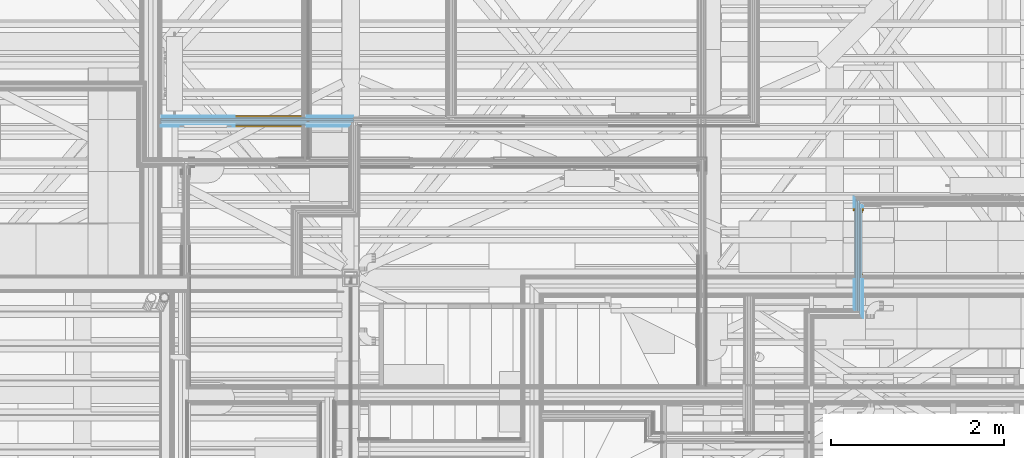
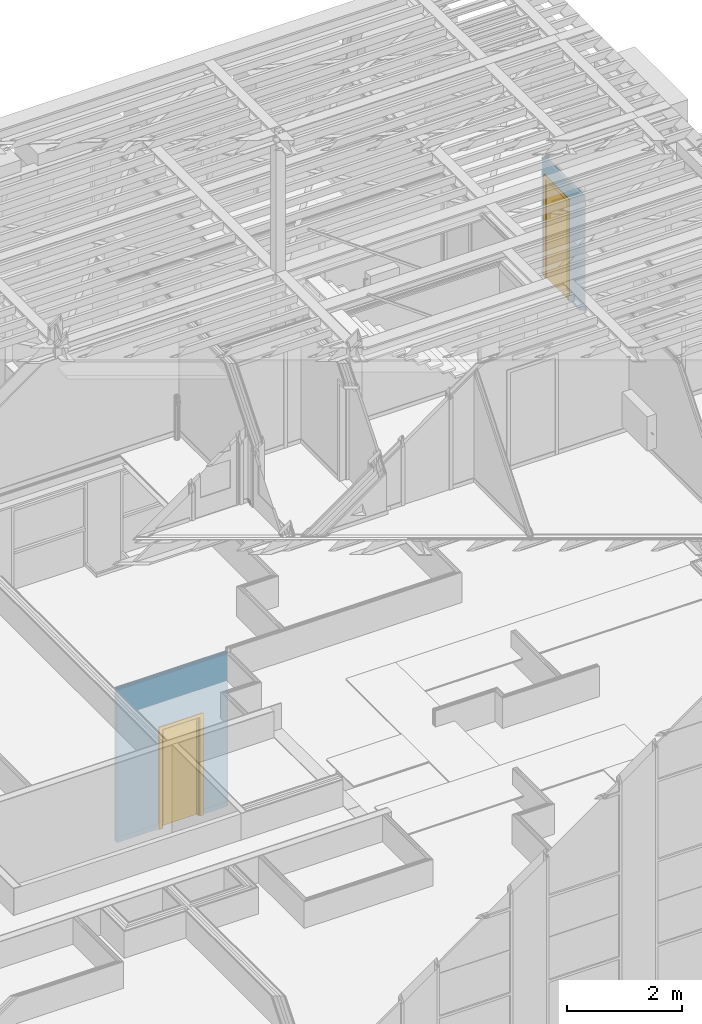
# One storey, part 105 of 183: 2 doors, 2 openings, 2 elements without a shape of their own, plus 14 elements that do not belong to this part.
"""IFC2X3 building model written with IfcOpenShell, lengths in metres."""

from ifc_helpers import new_model, entity, si_unit, converted_unit, derived_unit, money_unit, direction, frame, frame_2d, origin_with_axes, place, context, subcontext, project, spatial, polyline, rectangle, outline, extrude, faceted_brep, material, type_object, element, fill, aggregate, save


model = new_model("IFC2X3")

# Units and contexts
model_context = context("Model", 3, precision=1e-05, world=origin_with_axes(), true_north=direction((0.0, 1.0)))
body_context = subcontext(model_context, "Body", "Model", "MODEL_VIEW", scale=1.0)
ifc_project = project(units=[si_unit("LENGTHUNIT", "METRE"), si_unit("AREAUNIT", "SQUARE_METRE"), si_unit("VOLUMEUNIT", "CUBIC_METRE"), si_unit("ABSORBEDDOSEUNIT", "GRAY"), si_unit("AMOUNTOFSUBSTANCEUNIT", "MOLE"), si_unit("DOSEEQUIVALENTUNIT", "SIEVERT"), si_unit("ELECTRICCAPACITANCEUNIT", "FARAD"), si_unit("ELECTRICCHARGEUNIT", "COULOMB"), si_unit("ELECTRICCONDUCTANCEUNIT", "SIEMENS"), si_unit("ELECTRICCURRENTUNIT", "AMPERE"), si_unit("ELECTRICRESISTANCEUNIT", "OHM"), si_unit("ELECTRICVOLTAGEUNIT", "VOLT"), si_unit("ENERGYUNIT", "JOULE"), si_unit("FORCEUNIT", "NEWTON"), si_unit("FREQUENCYUNIT", "HERTZ"), si_unit("ILLUMINANCEUNIT", "LUX"), si_unit("INDUCTANCEUNIT", "HENRY"), si_unit("LUMINOUSFLUXUNIT", "LUMEN"), si_unit("LUMINOUSINTENSITYUNIT", "CANDELA"), si_unit("MAGNETICFLUXDENSITYUNIT", "TESLA"), si_unit("MAGNETICFLUXUNIT", "WEBER"), si_unit("MASSUNIT", "GRAM"), converted_unit("PLANEANGLEUNIT", "degree", entity("IfcReal", 0.0174532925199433), si_unit("PLANEANGLEUNIT", "RADIAN"), dimensions=[0, 0, 0, 0, 0, 0, 0]), si_unit("POWERUNIT", "WATT"), si_unit("PRESSUREUNIT", "PASCAL"), si_unit("RADIOACTIVITYUNIT", "BECQUEREL"), si_unit("SOLIDANGLEUNIT", "STERADIAN"), si_unit("THERMODYNAMICTEMPERATUREUNIT", "KELVIN"), si_unit("TIMEUNIT", "SECOND"), derived_unit("ACCELERATIONUNIT", [(si_unit("LENGTHUNIT", "METRE"), 1), (si_unit("TIMEUNIT", "SECOND"), -2)]), derived_unit("ANGULARVELOCITYUNIT", [(converted_unit("PLANEANGLEUNIT", "degree", entity("IfcReal", 0.0174532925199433), si_unit("PLANEANGLEUNIT", "RADIAN"), dimensions=[0, 0, 0, 0, 0, 0, 0]), 1), (si_unit("TIMEUNIT", "SECOND"), -1)]), derived_unit("CURVATUREUNIT", [(converted_unit("PLANEANGLEUNIT", "degree", entity("IfcReal", 0.0174532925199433), si_unit("PLANEANGLEUNIT", "RADIAN"), dimensions=[0, 0, 0, 0, 0, 0, 0]), 1), (si_unit("LENGTHUNIT", "METRE"), -1)]), derived_unit("DYNAMICVISCOSITYUNIT", [(si_unit("PRESSUREUNIT", "PASCAL"), 1), (si_unit("TIMEUNIT", "SECOND"), 1)]), derived_unit("HEATFLUXDENSITYUNIT", [(si_unit("POWERUNIT", "WATT"), 1), (si_unit("LENGTHUNIT", "METRE"), -2)]), derived_unit("HEATINGVALUEUNIT", [(si_unit("ENERGYUNIT", "JOULE"), 1), (si_unit("MASSUNIT", "GRAM"), -1)]), derived_unit("INTEGERCOUNTRATEUNIT", [(si_unit("TIMEUNIT", "SECOND"), -1)]), derived_unit("IONCONCENTRATIONUNIT", [(si_unit("MASSUNIT", "GRAM"), 1), (si_unit("VOLUMEUNIT", "CUBIC_METRE"), -1)]), derived_unit("ISOTHERMALMOISTURECAPACITYUNIT", [(si_unit("VOLUMEUNIT", "CUBIC_METRE"), 1), (si_unit("MASSUNIT", "GRAM"), -1)]), derived_unit("KINEMATICVISCOSITYUNIT", [(si_unit("AREAUNIT", "SQUARE_METRE"), 1), (si_unit("TIMEUNIT", "SECOND"), -1)]), derived_unit("LINEARFORCEUNIT", [(si_unit("FORCEUNIT", "NEWTON"), 1), (si_unit("LENGTHUNIT", "METRE"), -1)]), derived_unit("LINEARMOMENTUNIT", [(si_unit("FORCEUNIT", "NEWTON"), 1), (si_unit("LENGTHUNIT", "METRE"), -1)]), derived_unit("LINEARSTIFFNESSUNIT", [(si_unit("FORCEUNIT", "NEWTON"), 1), (si_unit("LENGTHUNIT", "METRE"), -1)]), derived_unit("LINEARVELOCITYUNIT", [(si_unit("LENGTHUNIT", "METRE"), 1), (si_unit("TIMEUNIT", "SECOND"), -1)]), derived_unit("LUMINOUSINTENSITYDISTRIBUTIONUNIT", [(si_unit("LUMINOUSINTENSITYUNIT", "CANDELA"), 1), (si_unit("LUMINOUSFLUXUNIT", "LUMEN"), -1)]), derived_unit("MASSDENSITYUNIT", [(si_unit("MASSUNIT", "GRAM"), 1), (si_unit("VOLUMEUNIT", "CUBIC_METRE"), -1)]), derived_unit("MASSFLOWRATEUNIT", [(si_unit("MASSUNIT", "GRAM"), 1), (si_unit("TIMEUNIT", "SECOND"), -1)]), derived_unit("MASSPERLENGTHUNIT", [(si_unit("MASSUNIT", "GRAM"), 1), (si_unit("LENGTHUNIT", "METRE"), -1)]), derived_unit("MODULUSOFELASTICITYUNIT", [(si_unit("FORCEUNIT", "NEWTON"), 1), (si_unit("AREAUNIT", "SQUARE_METRE"), -1)]), derived_unit("MODULUSOFLINEARSUBGRADEREACTIONUNIT", [(si_unit("FORCEUNIT", "NEWTON"), 1), (si_unit("LENGTHUNIT", "METRE"), -2)]), derived_unit("MODULUSOFROTATIONALSUBGRADEREACTIONUNIT", [(si_unit("FORCEUNIT", "NEWTON"), 1), (si_unit("LENGTHUNIT", "METRE"), 1)]), derived_unit("MODULUSOFSUBGRADEREACTIONUNIT", [(si_unit("FORCEUNIT", "NEWTON"), 1), (si_unit("VOLUMEUNIT", "CUBIC_METRE"), -1)]), derived_unit("MOISTUREDIFFUSIVITYUNIT", [(si_unit("VOLUMEUNIT", "CUBIC_METRE"), 1), (si_unit("TIMEUNIT", "SECOND"), -1)]), derived_unit("MOLECULARWEIGHTUNIT", [(si_unit("MASSUNIT", "GRAM"), 1), (si_unit("AMOUNTOFSUBSTANCEUNIT", "MOLE"), -1)]), derived_unit("PLANARFORCEUNIT", [(si_unit("FORCEUNIT", "NEWTON"), 1), (si_unit("LENGTHUNIT", "METRE"), -2)]), derived_unit("ROTATIONALFREQUENCYUNIT", [(si_unit("TIMEUNIT", "SECOND"), -1)]), derived_unit("ROTATIONALMASSUNIT", [(si_unit("MASSUNIT", "GRAM"), 1), (si_unit("LENGTHUNIT", "METRE"), 2)]), derived_unit("ROTATIONALSTIFFNESSUNIT", [(si_unit("FORCEUNIT", "NEWTON"), 1), (si_unit("LENGTHUNIT", "METRE"), 1), (converted_unit("PLANEANGLEUNIT", "degree", entity("IfcReal", 0.0174532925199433), si_unit("PLANEANGLEUNIT", "RADIAN"), dimensions=[0, 0, 0, 0, 0, 0, 0]), -1)]), derived_unit("SECTIONAREAINTEGRALUNIT", [(si_unit("LENGTHUNIT", "METRE"), 5)]), derived_unit("SECTIONMODULUSUNIT", [(si_unit("LENGTHUNIT", "METRE"), 3)]), derived_unit("SHEARMODULUSUNIT", [(si_unit("FORCEUNIT", "NEWTON"), 1), (si_unit("AREAUNIT", "SQUARE_METRE"), -1)]), derived_unit("SOUNDPOWERUNIT", [(si_unit("ENERGYUNIT", "JOULE"), 1), (si_unit("TIMEUNIT", "SECOND"), -1)]), derived_unit("SPECIFICHEATCAPACITYUNIT", [(si_unit("FORCEUNIT", "NEWTON"), 1), (si_unit("MASSUNIT", "GRAM"), -1), (si_unit("THERMODYNAMICTEMPERATUREUNIT", "KELVIN"), -1)]), derived_unit("TEMPERATUREGRADIENTUNIT", [(si_unit("THERMODYNAMICTEMPERATUREUNIT", "KELVIN"), 1), (si_unit("LENGTHUNIT", "METRE"), -1)]), derived_unit("THERMALADMITTANCEUNIT", [(si_unit("POWERUNIT", "WATT"), 1), (si_unit("AREAUNIT", "SQUARE_METRE"), -1), (si_unit("THERMODYNAMICTEMPERATUREUNIT", "KELVIN"), -1)]), derived_unit("THERMALCONDUCTANCEUNIT", [(si_unit("POWERUNIT", "WATT"), 1), (si_unit("LENGTHUNIT", "METRE"), -1), (si_unit("THERMODYNAMICTEMPERATUREUNIT", "KELVIN"), -1)]), derived_unit("THERMALEXPANSIONCOEFFICIENTUNIT", [(si_unit("THERMODYNAMICTEMPERATUREUNIT", "KELVIN"), -1)]), derived_unit("THERMALRESISTANCEUNIT", [(si_unit("AREAUNIT", "SQUARE_METRE"), 1), (si_unit("POWERUNIT", "WATT"), -1)]), derived_unit("THERMALTRANSMITTANCEUNIT", [(si_unit("POWERUNIT", "WATT"), 1), (si_unit("AREAUNIT", "SQUARE_METRE"), -1), (si_unit("THERMODYNAMICTEMPERATUREUNIT", "KELVIN"), -1)]), derived_unit("TORQUEUNIT", [(si_unit("FORCEUNIT", "NEWTON"), 1), (si_unit("LENGTHUNIT", "METRE"), 1)]), derived_unit("VAPORPERMEABILITYUNIT", [(si_unit("MASSUNIT", "GRAM"), 1), (si_unit("TIMEUNIT", "SECOND"), -1)]), derived_unit("VOLUMETRICFLOWRATEUNIT", [(si_unit("VOLUMEUNIT", "CUBIC_METRE"), 1), (si_unit("TIMEUNIT", "SECOND"), -1)]), derived_unit("WARPINGCONSTANTUNIT", [(si_unit("LENGTHUNIT", "METRE"), 6)]), derived_unit("WARPINGMOMENTUNIT", [(si_unit("FORCEUNIT", "NEWTON"), 1), (si_unit("LENGTHUNIT", "METRE"), 2)]), money_unit("GBP")], contexts=[model_context])

# Site, building, storey, space
site_placement = place(None, origin_with_axes())
site = spatial("IfcSite", under=ifc_project, at=site_placement, Name="Site", CompositionType="ELEMENT")
building_placement = place(site_placement, origin_with_axes())
building = spatial("IfcBuilding", under=site, at=building_placement, Name="Building01", CompositionType="ELEMENT")
storey_placement = place(building_placement, frame((0.0, 0.0, 5.15), z_axis=(0.0, 0.0, 1.0), x_axis=(1.0, 0.0, 0.0)))
storey = spatial("IfcBuildingStorey", under=building, at=storey_placement, Name="1F", CompositionType="ELEMENT", Elevation=5.15)
space_1_placement = place(storey_placement, frame((16.03844, 8.82, 9.81), z_axis=(0.0, 0.0, 1.0), x_axis=(0.0, -1.0, 0.0)))
space_1 = spatial("IfcSpace", under=storey, at=space_1_placement, Name="23", CompositionType="ELEMENT", InteriorOrExteriorSpace="NOTDEFINED")

# Door
ifc_material_1 = material(Name="A_BSUK_Doors")
door_style_1 = type_object("IfcDoorStyle", Name="A-Doors-SingleFlush", ConstructionType="USERDEFINED", OperationType="SINGLE_SWING_LEFT", ParameterTakesPrecedence=False, Sizeable=False)
wall_2_placement = place(storey_placement, frame((23.803, 8.401915, 9.78), z_axis=(0.0, 0.0, 1.0), x_axis=(0.0, 1.0, 0.0)))
opening_2_placement = place(wall_2_placement, frame((0.382109, -0.042, 0.0), z_axis=(0.0, 0.0, 1.0), x_axis=(1.0, 0.0, 0.0)))
door_1_placement = place(opening_2_placement, frame((0.042, 0.095, 0.0), z_axis=(0.0, 0.0, 1.0), x_axis=(1.0, 0.0, 0.0)))
door_1 = element("IfcDoor", 1, at=door_1_placement, inside=space_1, type_object=door_style_1, material=ifc_material_1, Name="4.09", ObjectType="A-Doors-SingleFlush", OverallHeight=2.142, OverallWidth=0.834, context=body_context, shape_type="Brep", body=[
    faceted_brep([(0.0, -0.099, 2.1), (0.75, -0.099, 2.1), (0.75, -0.099, 0.0), (0.819, -0.099, 0.0), (0.819, -0.099, 2.169), (-0.069, -0.099, 2.169), (-0.069, -0.099, 0.0), (0.0, -0.099, 0.0), (0.819, -0.08, 2.169), (0.819, -0.08, 0.0), (-0.069, -0.08, 0.0), (-0.069, -0.08, 2.169), (-0.042, -0.08, 0.0), (-0.042, 0.0, 0.0), (-0.069, 0.0, 0.0), (-0.069, 0.019, 0.0), (0.0, 0.019, 0.0), (0.0, 0.019, 2.1), (0.75, 0.019, 2.1), (-0.069, 0.019, 2.169), (0.819, 0.019, 2.169), (0.819, 0.019, 0.0), (0.75, 0.019, 0.0), (-0.069, 0.0, 2.169), (-0.042, 0.0, 2.142), (-0.042, -0.08, 2.142), (0.792, 0.0, 2.142), (0.792, -0.08, 2.142), (0.792, -0.08, 0.0), (0.792, 0.0, 0.0), (0.819, 0.0, 0.0), (0.819, 0.0, 2.169)], [[[0, 1, 2, 3, 4, 5, 6, 7]], [[8, 4, 3, 9]], [[10, 6, 5, 11]], [[11, 5, 4, 8]], [[7, 6, 10, 12, 13, 14, 15, 16]], [[7, 16, 17, 0]], [[0, 17, 18, 1]], [[17, 16, 15, 19, 20, 21, 22, 18]], [[1, 18, 22, 2]], [[14, 23, 19, 15]], [[24, 13, 12, 25]], [[26, 24, 25, 27]], [[11, 8, 9, 28, 27, 25, 12, 10]], [[27, 28, 29, 26]], [[26, 29, 30, 31, 23, 14, 13, 24]], [[22, 21, 30, 29, 28, 9, 3, 2]], [[30, 21, 20, 31]], [[31, 20, 19, 23]]]),
    faceted_brep([(0.75, -0.09, 0.0), (0.75, -0.04, 0.0), (0.75, -0.04, 2.1), (0.75, -0.09, 2.1), (0.025, -0.09, 2.075), (0.725, -0.09, 2.075), (0.725, -0.09, 0.0), (0.0, -0.09, 2.1), (0.0, -0.09, 0.0), (0.025, -0.09, 0.0), (0.0, -0.04, 0.0), (0.025, -0.04, 0.0), (0.0, -0.04, 2.1), (0.025, -0.04, 2.075), (0.725, -0.04, 0.0), (0.725, -0.04, 2.075)], [[[0, 1, 2, 3]], [[4, 5, 6, 0, 3, 7, 8, 9]], [[9, 8, 10, 11]], [[3, 2, 12, 7]], [[7, 12, 10, 8]], [[13, 11, 10, 12, 2, 1, 14, 15]], [[5, 15, 14, 6]], [[14, 1, 0, 6]], [[9, 11, 13, 4]], [[4, 13, 15, 5]]]),
    faceted_brep([(0.0, -0.04, 2.1), (0.0, 0.0, 2.1), (0.0, 0.0, 0.0), (0.0, -0.04, 0.0), (0.75, -0.04, 0.0), (0.75, 0.0, 0.0), (0.75, 0.0, 2.1), (0.75, -0.04, 2.1)], [[[0, 1, 2, 3]], [[4, 5, 6, 7]], [[3, 2, 5, 4]], [[3, 4, 7, 0]], [[7, 6, 1, 0]], [[1, 6, 5, 2]]]),
])

# Space
space_2_placement = place(storey_placement, frame((15.83, 8.82, 0.017975), z_axis=(0.0, 0.0, 1.0), x_axis=(0.0, -1.0, 0.0)))
space_2 = spatial("IfcSpace", under=storey, at=space_2_placement, Name="02", CompositionType="ELEMENT", InteriorOrExteriorSpace="NOTDEFINED")

# Door
door_style_2 = type_object("IfcDoorStyle", Name="A-Doors-SingleFlush", ConstructionType="USERDEFINED", OperationType="SINGLE_SWING_LEFT", ParameterTakesPrecedence=False, Sizeable=False)
wall_1_placement = place(storey_placement, frame((17.94, 10.63, 0.0), z_axis=(0.0, 0.0, 1.0), x_axis=(-1.0, 0.0, 0.0)))
opening_1_placement = place(wall_1_placement, frame((0.540552, -0.05, 0.0), z_axis=(0.0, 0.0, 1.0), x_axis=(1.0, 0.0, 0.0)))
door_2_placement = place(opening_1_placement, frame((0.792, 0.015, 0.0), z_axis=(0.0, 0.0, 1.0), x_axis=(-1.0, 0.0, 0.0)))
door_2 = element("IfcDoor", 2, at=door_2_placement, inside=space_2, type_object=door_style_2, material=ifc_material_1, Name="1.05", ObjectType="A-Doors-SingleFlush", OverallHeight=2.142, OverallWidth=0.834, context=body_context, shape_type="Brep", body=[
    faceted_brep([(0.0, -0.114, 2.1), (0.75, -0.114, 2.1), (0.75, -0.114, 0.0), (0.819, -0.114, 0.0), (0.819, -0.114, 2.169), (-0.069, -0.114, 2.169), (-0.069, -0.114, 0.0), (0.0, -0.114, 0.0), (0.819, -0.095, 2.169), (0.819, -0.095, 0.0), (-0.069, -0.095, 0.0), (-0.069, -0.095, 2.169), (-0.042, -0.095, 0.0), (-0.042, 0.0, 0.0), (-0.069, 0.0, 0.0), (-0.069, 0.019, 0.0), (0.0, 0.019, 0.0), (0.0, 0.019, 2.1), (0.75, 0.019, 2.1), (-0.069, 0.019, 2.169), (0.819, 0.019, 2.169), (0.819, 0.019, 0.0), (0.75, 0.019, 0.0), (-0.069, 0.0, 2.169), (-0.042, 0.0, 2.142), (-0.042, -0.095, 2.142), (0.792, 0.0, 2.142), (0.792, -0.095, 2.142), (0.792, -0.095, 0.0), (0.792, 0.0, 0.0), (0.819, 0.0, 0.0), (0.819, 0.0, 2.169)], [[[0, 1, 2, 3, 4, 5, 6, 7]], [[8, 4, 3, 9]], [[10, 6, 5, 11]], [[11, 5, 4, 8]], [[7, 6, 10, 12, 13, 14, 15, 16]], [[7, 16, 17, 0]], [[0, 17, 18, 1]], [[17, 16, 15, 19, 20, 21, 22, 18]], [[1, 18, 22, 2]], [[14, 23, 19, 15]], [[24, 13, 12, 25]], [[26, 24, 25, 27]], [[11, 8, 9, 28, 27, 25, 12, 10]], [[27, 28, 29, 26]], [[26, 29, 30, 31, 23, 14, 13, 24]], [[22, 21, 30, 29, 28, 9, 3, 2]], [[30, 21, 20, 31]], [[31, 20, 19, 23]]]),
    faceted_brep([(0.75, -0.09, 0.0), (0.75, -0.04, 0.0), (0.75, -0.04, 2.1), (0.75, -0.09, 2.1), (0.025, -0.09, 2.075), (0.725, -0.09, 2.075), (0.725, -0.09, 0.0), (0.0, -0.09, 2.1), (0.0, -0.09, 0.0), (0.025, -0.09, 0.0), (0.0, -0.04, 0.0), (0.025, -0.04, 0.0), (0.0, -0.04, 2.1), (0.025, -0.04, 2.075), (0.725, -0.04, 0.0), (0.725, -0.04, 2.075)], [[[0, 1, 2, 3]], [[4, 5, 6, 0, 3, 7, 8, 9]], [[9, 8, 10, 11]], [[3, 2, 12, 7]], [[7, 12, 10, 8]], [[13, 11, 10, 12, 2, 1, 14, 15]], [[5, 15, 14, 6]], [[14, 1, 0, 6]], [[9, 11, 13, 4]], [[4, 13, 15, 5]]]),
    faceted_brep([(0.0, -0.04, 2.1), (0.0, 0.0, 2.1), (0.0, 0.0, 0.0), (0.0, -0.04, 0.0), (0.75, -0.04, 0.0), (0.75, 0.0, 0.0), (0.75, 0.0, 2.1), (0.75, -0.04, 2.1)], [[[0, 1, 2, 3]], [[4, 5, 6, 7]], [[3, 2, 5, 4]], [[3, 4, 7, 0]], [[7, 6, 1, 0]], [[1, 6, 5, 2]]]),
])

# Wall, opening
wall_type_1 = type_object("IfcWallType", Name="SHE_A-Walls_Type05a_Partition_95mm_tall", PredefinedType="NOTDEFINED")
wall_1 = element("IfcWall", 3, at=wall_1_placement, inside=storey, type_object=wall_type_1, Name="5A", ObjectType="SHE_A-Walls_Type05a_Partition_95mm_tall")
opening_1 = element("IfcOpeningElement", 4, at=opening_1_placement, cuts=wall_1, Name="Opening", ObjectType="Opening", context=body_context, shape_type="SweptSolid", body=[
    extrude(rectangle(XDim=0.834, YDim=2.142, at=frame_2d((-0.417, 1.071), x_axis=(-1.0, 0.0))), frame((0.0, 0.0, 0.0), z_axis=(0.0, 1.0, 0.0), x_axis=(-1.0, 0.0, 0.0)), (0.0, 0.0, 1.0), 0.125),
])

fill(opening_1, door_2)

# Building element part
ifc_material_2 = material(Name="A_BSUK_Walls_Timber")
placement_1 = place(wall_1_placement, origin_with_axes())
building_element_part_1 = element("IfcBuildingElementPart", 5, at=placement_1, material=ifc_material_2, Name="1", context=body_context, shape_type="SweptSolid", body=[
    extrude(rectangle(XDim=2.216868, YDim=0.015, at=frame_2d((1.108434, -0.0425), x_axis=(-1.0, 0.0))), frame((0.0, 0.0, 0.015), z_axis=(0.0, 0.0, 1.0), x_axis=(1.0, 0.0, 0.0)), (0.0, 0.0, 1.0), 0.1),
])

ifc_material_3 = material(Name="A_BSUK_WallInternal_Finishes_Plasterboard")
building_element_part_2 = element("IfcBuildingElementPart", 6, at=placement_1, material=ifc_material_3, Name="2", context=body_context, shape_type="SweptSolid", body=[
    extrude(rectangle(XDim=2.231868, YDim=0.012, at=frame_2d((1.115934, -0.029), x_axis=(-1.0, 0.0))), origin_with_axes(), (0.0, 0.0, 1.0), 3.24),
])

ifc_material_4 = material(Name="Air Cavity")
building_element_part_3 = element("IfcBuildingElementPart", 7, at=placement_1, material=ifc_material_4, Name="3", context=body_context, shape_type="SweptSolid", body=[
    extrude(rectangle(XDim=2.231868, YDim=0.023, at=frame_2d((1.115934, -0.0115), x_axis=(-1.0, 0.0))), origin_with_axes(), (0.0, 0.0, 1.0), 3.24),
])

ifc_material_5 = material(Name="A_BSUK_Insulation")
building_element_part_4 = element("IfcBuildingElementPart", 8, at=placement_1, material=ifc_material_5, Name="4", context=body_context, shape_type="SweptSolid", body=[
    extrude(rectangle(XDim=2.231868, YDim=0.025, at=frame_2d((1.115934, 0.0125), x_axis=(-1.0, 0.0))), origin_with_axes(), (0.0, 0.0, 1.0), 3.24),
])

building_element_part_5 = element("IfcBuildingElementPart", 9, at=placement_1, material=ifc_material_4, Name="5", context=body_context, shape_type="SweptSolid", body=[
    extrude(rectangle(XDim=2.231868, YDim=0.023, at=frame_2d((1.115934, 0.0365), x_axis=(-1.0, 0.0))), origin_with_axes(), (0.0, 0.0, 1.0), 3.24),
])

building_element_part_6 = element("IfcBuildingElementPart", 10, at=placement_1, material=ifc_material_3, Name="6", context=body_context, shape_type="SweptSolid", body=[
    extrude(rectangle(XDim=2.208868, YDim=0.012, at=frame_2d((1.127434, 0.054), x_axis=(-1.0, 0.0))), origin_with_axes(), (0.0, 0.0, 1.0), 3.24),
])

building_element_part_7 = element("IfcBuildingElementPart", 11, at=placement_1, material=ifc_material_2, Name="7", context=body_context, shape_type="SweptSolid", body=[
    extrude(rectangle(XDim=2.196868, YDim=0.015, at=frame_2d((1.133434, 0.0675), x_axis=(-1.0, 0.0))), frame((0.0, 0.0, 0.015), z_axis=(0.0, 0.0, 1.0), x_axis=(1.0, 0.0, 0.0)), (0.0, 0.0, 1.0), 0.1),
])

aggregate(wall_1, [building_element_part_1, building_element_part_2, building_element_part_3, building_element_part_4, building_element_part_5, building_element_part_6, building_element_part_7])

# Wall, opening
wall_type_2 = type_object("IfcWallType", Name="SHE_A-Walls_Type05b_Partition_80mm", PredefinedType="NOTDEFINED")
wall_2 = element("IfcWall", 12, at=wall_2_placement, inside=storey, type_object=wall_type_2, Name="5B", ObjectType="SHE_A-Walls_Type05b_Partition_80mm")
opening_2 = element("IfcOpeningElement", 13, at=opening_2_placement, cuts=wall_2, Name="Opening", ObjectType="Opening", context=body_context, shape_type="SweptSolid", body=[
    extrude(rectangle(XDim=0.834, YDim=2.142, at=frame_2d((-0.417, 1.071), x_axis=(1.0, 0.0))), frame((0.0, 0.0, 0.0), z_axis=(0.0, 1.0, 0.0), x_axis=(-1.0, 0.0, 0.0)), (0.0, 0.0, 1.0), 0.11),
])

fill(opening_2, door_1)

# Building element part
placement_2 = place(wall_2_placement, origin_with_axes())
building_element_part_8 = element("IfcBuildingElementPart", 14, at=placement_2, material=ifc_material_2, Name="1", context=body_context, shape_type="SweptSolid", body=[
    extrude(outline(polyline([(1.243109, -0.027), (-0.052, -0.027), (-0.067, -0.042), (1.228109, -0.042), (1.243109, -0.027)])), frame((0.0, 0.0, 0.015), z_axis=(0.0, 0.0, 1.0), x_axis=(1.0, 0.0, 0.0)), (0.0, 0.0, 1.0), 0.1),
])

building_element_part_9 = element("IfcBuildingElementPart", 15, at=placement_2, material=ifc_material_3, Name="2", context=body_context, shape_type="SweptSolid", body=[
    extrude(outline(polyline([(1.258109, -0.012), (-0.037, -0.012), (-0.052, -0.027), (1.243109, -0.027), (1.258109, -0.012)])), origin_with_axes(), (0.0, 0.0, 1.0), 2.468),
])

building_element_part_10 = element("IfcBuildingElementPart", 16, at=placement_2, material=ifc_material_4, Name="3", context=body_context, shape_type="SweptSolid", body=[
    extrude(outline(polyline([(1.270109, 0.0), (-0.025, 0.0), (-0.037, -0.012), (1.258109, -0.012), (1.270109, 0.0)])), origin_with_axes(), (0.0, 0.0, 1.0), 2.468),
])

building_element_part_11 = element("IfcBuildingElementPart", 17, at=placement_2, material=ifc_material_5, Name="4", context=body_context, shape_type="SweptSolid", body=[
    extrude(rectangle(XDim=1.295109, YDim=0.025, at=frame_2d((0.647555, 0.0125), x_axis=(-1.0, 0.0))), origin_with_axes(), (0.0, 0.0, 1.0), 2.468),
])

building_element_part_12 = element("IfcBuildingElementPart", 18, at=placement_2, material=ifc_material_4, Name="5", context=body_context, shape_type="SweptSolid", body=[
    extrude(rectangle(XDim=1.295109, YDim=0.013, at=frame_2d((0.647555, 0.0315), x_axis=(-1.0, 0.0))), origin_with_axes(), (0.0, 0.0, 1.0), 2.468),
])

building_element_part_13 = element("IfcBuildingElementPart", 19, at=placement_2, material=ifc_material_3, Name="6", context=body_context, shape_type="SweptSolid", body=[
    extrude(outline(polyline([(1.323109, 0.053), (0.028, 0.053), (0.013, 0.038), (1.308109, 0.038), (1.323109, 0.053)])), origin_with_axes(), (0.0, 0.0, 1.0), 2.468),
])

building_element_part_14 = element("IfcBuildingElementPart", 20, at=placement_2, material=ifc_material_2, Name="7", context=body_context, shape_type="SweptSolid", body=[
    extrude(outline(polyline([(1.338109, 0.068), (0.043, 0.068), (0.028, 0.053), (1.323109, 0.053), (1.338109, 0.068)])), frame((0.0, 0.0, 0.015), z_axis=(0.0, 0.0, 1.0), x_axis=(1.0, 0.0, 0.0)), (0.0, 0.0, 1.0), 0.1),
])

aggregate(wall_2, [building_element_part_8, building_element_part_9, building_element_part_10, building_element_part_11, building_element_part_12, building_element_part_13, building_element_part_14])

save(model, "model.ifc")
